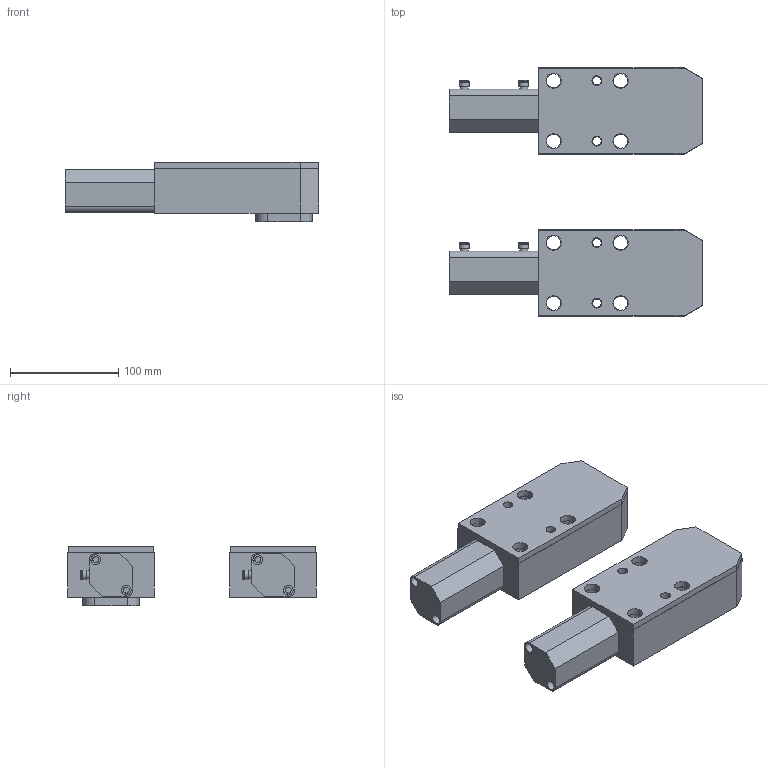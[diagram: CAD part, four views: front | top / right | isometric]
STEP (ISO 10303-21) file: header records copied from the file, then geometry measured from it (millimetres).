
FILE_DESCRIPTION(('STEP AP214'),'1');
FILE_NAME('1002.0032.stp','2020-05-22T14:12:31',(' '),(' '),'Spatial InterOp 3D',' ',' ');
FILE_SCHEMA(('AUTOMOTIVE_DESIGN { 1 0 10303 214 1 1 1 1 }'));
Length unit declared in the file: millimetre
Products named in the file (7): (PMS) 1002.0032; 5; 3; Assemblato; (PMI) 1002.0032; 6; 1
Assembly tree (6 placements, depth 3):
  Assemblato
    (PMS) 1002.0032
      5
      3
    (PMI) 1002.0032
      6
      1
Bounding box: 234.5 x 230 x 55 mm (x, y, z)
Volume: 1206235.4 mm3; surface area: 194355.3 mm2
Topology: 4 solids, 4 shells, 824 faces, 2178 edges, 1450 vertices
Faces by surface type: extrusion 422, plane 266, cylinder 118, torus 12, cone 4, sphere 2
Full cylindrical faces by diameter (mm): 5.5 x4, 7.5 x8, 8 x4, 8.5 x4, 9 x16, 13 x8, 14 x8, 19.9 x8, 32 x2
Entity records: 32344 total; most frequent: CARTESIAN_POINT 6945, ORIENTED_EDGE 4160, DIRECTION 2730, EDGE_CURVE 2080, VERTEX_POINT 1434, VECTOR 1404, B_SPLINE_CURVE_WITH_KNOTS 1268, EDGE_LOOP 1018
